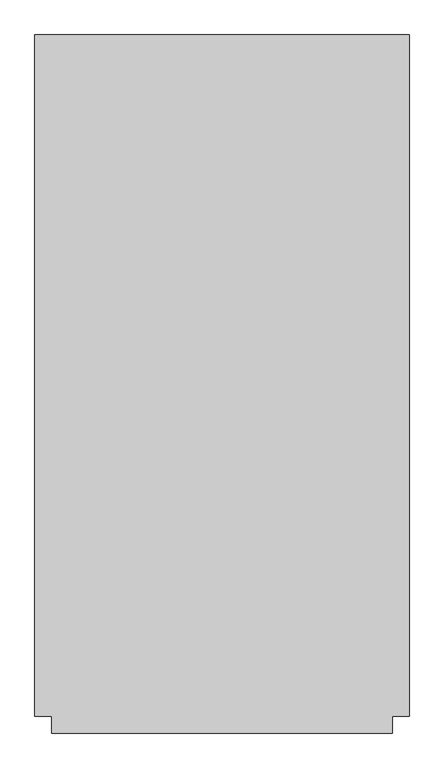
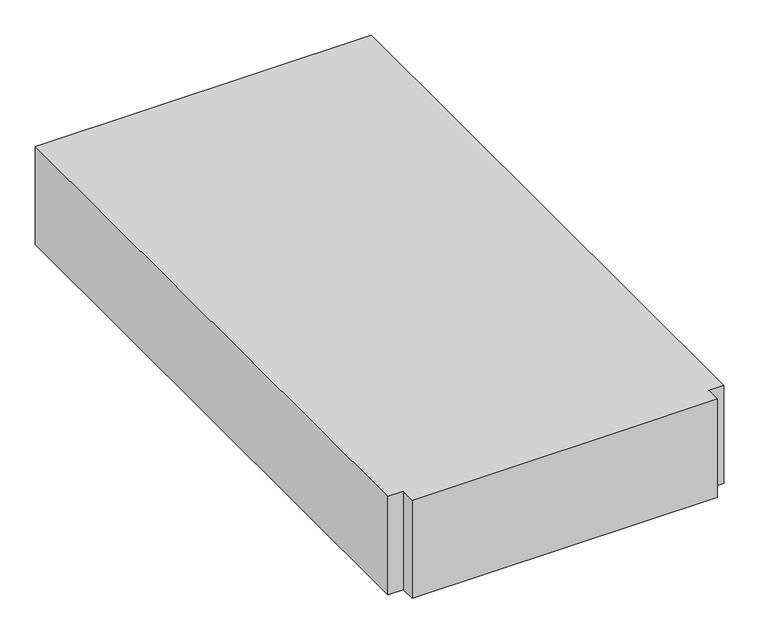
"""IFC4 building model written with IfcOpenShell, lengths in millimetres: duct fitting geometry, M_Te rectangular : Estándar."""

from ifc_helpers import new_model, si_unit, frame, origin, place, context, project, spatial, polyline, outline, extrude, source, transform, mapped, element, save


def duct_fitting_38b5ef72(model_context):
    return source(origin(), model_context, "Body", "SweptSolid", [
        extrude(outline(polyline([(-275.0, -500.0), (-275.0, 500.0), (275.0, 500.0), (275.0, -500.0), (250.0, -500.0), (250.0, -525.0), (-250.0, -525.0), (-250.0, -500.0), (-275.0, -500.0)])), frame((0.0, 0.0, -85.0), z_axis=(0.0, 0.0, 1.0), x_axis=(1.0, 0.0, 0.0)), (0.0, 0.0, 1.0), 170.0),
    ])


if __name__ == "__main__":
    model = new_model("IFC4")
    model_context = context("Model", 3, world=origin())
    ifc_project = project(units=[si_unit("LENGTHUNIT", "METRE", prefix="MILLI")], contexts=[model_context])
    site = spatial("IfcSite", under=ifc_project)
    building = spatial("IfcBuilding", under=site)
    placement = place(None, origin())
    duct_fitting_shape = duct_fitting_38b5ef72(model_context)
    element("IfcDuctFitting", 1, ObjectType="M_Te rectangular : Estándar", at=placement, inside=building, context=model_context, shape_type="MappedRepresentation", body=[
        mapped(duct_fitting_shape, transform((0.0, 0.0, 0.0), x_axis=(1.0, 0.0, 0.0), y_axis=(0.0, 1.0, 0.0), z_axis=(0.0, 0.0, 1.0))),
    ])
    save(model, "model.ifc")
